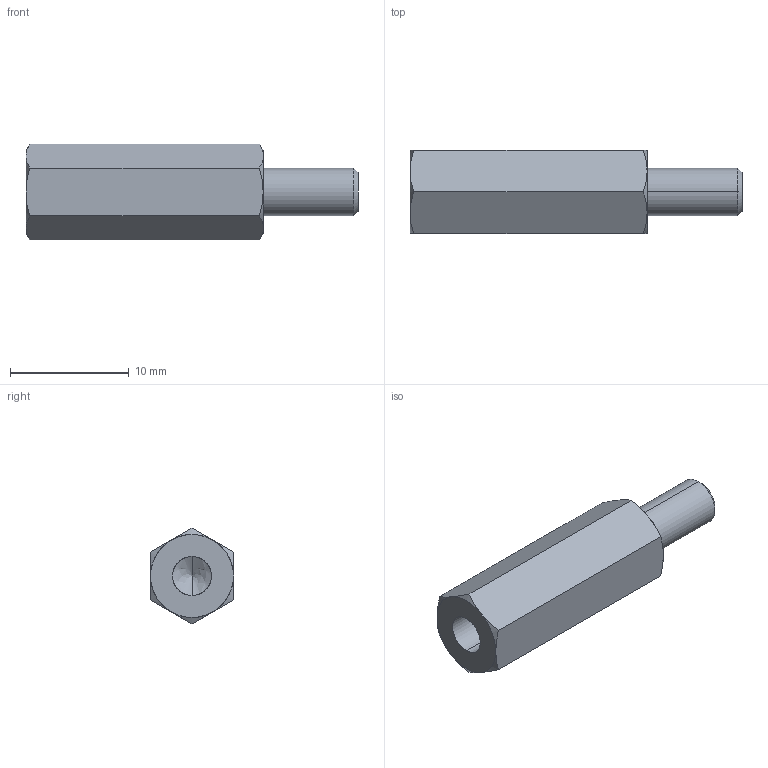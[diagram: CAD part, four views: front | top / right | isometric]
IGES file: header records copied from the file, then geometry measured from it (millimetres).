
Start section: SolidWorks IGES file using analytic representation for surfaces
Global section: file name: C:\Users\render1\Desktop\P0185_IGES\P0185.04-20.igs; native system: SolidWorks 2009; preprocessor: SolidWorks 2009; author: render1; date: 130627.112101; units: millimetre
Bounding box: 28 x 7 x 8.08 mm (x, y, z)
Surface area: 747.9 mm2 (no closed solid volume)
Topology: 0 solids, 0 shells, 29 faces, 320 edges, 318 vertices
Faces by surface type: revolution 20, bspline 9
